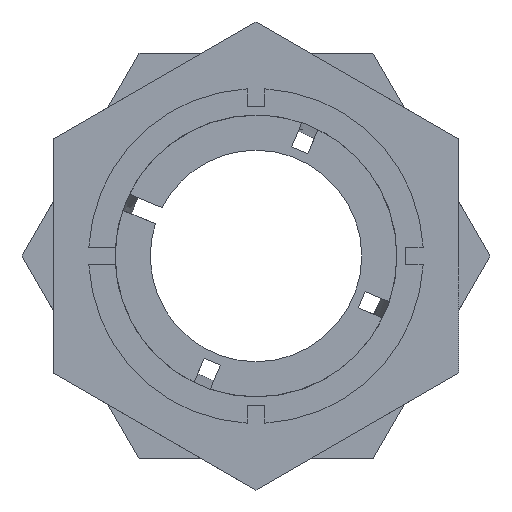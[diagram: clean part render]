
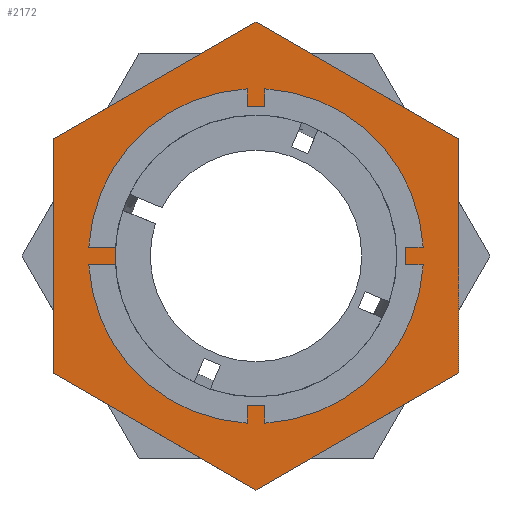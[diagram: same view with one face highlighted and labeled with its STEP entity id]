
A CAD part, left-side view. The second image highlights one B-rep face of the part: STEP entity #2172.
In plain terms, the highlighted planar face has unit normal (-1, 0, 0).
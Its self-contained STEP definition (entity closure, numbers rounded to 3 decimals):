
#151 = AXIS2_PLACEMENT_3D ( 'NONE', #1715, #1707, #1705 ) ;
#191 = EDGE_CURVE ( 'NONE', #2086, #2088, #2316, .T. ) ;
#220 = EDGE_CURVE ( 'NONE', #2098, #2087, #2275, .T. ) ;
#225 = AXIS2_PLACEMENT_3D ( 'NONE', #1922, #1916, #1914 ) ;
#254 = EDGE_CURVE ( 'NONE', #2087, #2100, #2257, .T. ) ;
#273 = EDGE_CURVE ( 'NONE', #2081, #2096, #961, .T. ) ;
#280 = EDGE_CURVE ( 'NONE', #2088, #2098, #2247, .T. ) ;
#358 = EDGE_CURVE ( 'NONE', #2096, #2081, #1239, .T. ) ;
#363 = EDGE_CURVE ( 'NONE', #2100, #2095, #1260, .T. ) ;
#370 = EDGE_CURVE ( 'NONE', #2095, #2086, #538, .T. ) ;
#524 = VECTOR ( 'NONE', #1691, 1000. ) ;
#538 = LINE ( 'NONE', #1675, #539 ) ;
#539 = VECTOR ( 'NONE', #1674, 1000. ) ;
#609 = FACE_BOUND ( 'NONE', #858, .T. ) ;
#614 = FACE_OUTER_BOUND ( 'NONE', #837, .T. ) ;
#724 = DIRECTION ( 'NONE',  ( 0., 0., -1. ) ) ;
#727 = PLANE ( 'NONE',  #1086 ) ;
#729 = DIRECTION ( 'NONE',  ( 1., 0., 0. ) ) ;
#765 = CARTESIAN_POINT ( 'NONE',  ( 20.52, 50., 0. ) ) ;
#837 = EDGE_LOOP ( 'NONE', ( #2382, #2380, #2379, #2381, #2432, #2430 ) ) ;
#858 = EDGE_LOOP ( 'NONE', ( #2384, #2383 ) ) ;
#960 = VECTOR ( 'NONE', #1889, 1000. ) ;
#961 = CIRCLE ( 'NONE', #225, 15.001 ) ;
#1086 = AXIS2_PLACEMENT_3D ( 'NONE', #765, #729, #724 ) ;
#1239 = CIRCLE ( 'NONE', #151, 15.001 ) ;
#1260 = LINE ( 'NONE', #1696, #524 ) ;
#1494 = CARTESIAN_POINT ( 'NONE',  ( 20.52, -23., -13.279 ) ) ;
#1496 = CARTESIAN_POINT ( 'NONE',  ( 20.52, 23., -13.279 ) ) ;
#1498 = CARTESIAN_POINT ( 'NONE',  ( 20.52, 0., 15.001 ) ) ;
#1499 = CARTESIAN_POINT ( 'NONE',  ( 20.52, -23., 13.279 ) ) ;
#1507 = CARTESIAN_POINT ( 'NONE',  ( 20.52, 23., 13.279 ) ) ;
#1508 = CARTESIAN_POINT ( 'NONE',  ( 20.52, 0., -26.558 ) ) ;
#1511 = CARTESIAN_POINT ( 'NONE',  ( 20.52, 0., 26.558 ) ) ;
#1517 = CARTESIAN_POINT ( 'NONE',  ( 20.52, 0., -15.001 ) ) ;
#1674 = DIRECTION ( 'NONE',  ( 0., 0.866, 0.5 ) ) ;
#1675 = CARTESIAN_POINT ( 'NONE',  ( 20.52, 0., 26.558 ) ) ;
#1691 = DIRECTION ( 'NONE',  ( 0., 0., 1. ) ) ;
#1696 = CARTESIAN_POINT ( 'NONE',  ( 20.52, -23., 13.279 ) ) ;
#1705 = DIRECTION ( 'NONE',  ( 0., 0., 1. ) ) ;
#1707 = DIRECTION ( 'NONE',  ( -1., 0., 0. ) ) ;
#1715 = CARTESIAN_POINT ( 'NONE',  ( 20.52, 0., 0. ) ) ;
#1889 = DIRECTION ( 'NONE',  ( 0., 0., -1. ) ) ;
#1891 = CARTESIAN_POINT ( 'NONE',  ( 20.52, 23., -13.279 ) ) ;
#1914 = DIRECTION ( 'NONE',  ( 0., 0., 1. ) ) ;
#1916 = DIRECTION ( 'NONE',  ( -1., 0., 0. ) ) ;
#1922 = CARTESIAN_POINT ( 'NONE',  ( 20.52, 0., 0. ) ) ;
#1937 = DIRECTION ( 'NONE',  ( 0., 0.866, -0.5 ) ) ;
#1958 = CARTESIAN_POINT ( 'NONE',  ( 20.52, 23., 13.279 ) ) ;
#1984 = DIRECTION ( 'NONE',  ( 0., -0.866, 0.5 ) ) ;
#1994 = CARTESIAN_POINT ( 'NONE',  ( 20.52, -23., -13.279 ) ) ;
#2014 = DIRECTION ( 'NONE',  ( 0., -0.866, -0.5 ) ) ;
#2015 = CARTESIAN_POINT ( 'NONE',  ( 20.52, 0., -26.558 ) ) ;
#2081 = VERTEX_POINT ( 'NONE', #1517 ) ;
#2086 = VERTEX_POINT ( 'NONE', #1511 ) ;
#2087 = VERTEX_POINT ( 'NONE', #1508 ) ;
#2088 = VERTEX_POINT ( 'NONE', #1507 ) ;
#2095 = VERTEX_POINT ( 'NONE', #1499 ) ;
#2096 = VERTEX_POINT ( 'NONE', #1498 ) ;
#2098 = VERTEX_POINT ( 'NONE', #1496 ) ;
#2100 = VERTEX_POINT ( 'NONE', #1494 ) ;
#2172 = ADVANCED_FACE ( 'NONE', ( #609, #614 ), #727, .F. ) ;
#2247 = LINE ( 'NONE', #1891, #960 ) ;
#2257 = LINE ( 'NONE', #1994, #2263 ) ;
#2263 = VECTOR ( 'NONE', #1984, 1000. ) ;
#2275 = LINE ( 'NONE', #2015, #2291 ) ;
#2291 = VECTOR ( 'NONE', #2014, 1000. ) ;
#2316 = LINE ( 'NONE', #1958, #2318 ) ;
#2318 = VECTOR ( 'NONE', #1937, 1000. ) ;
#2379 = ORIENTED_EDGE ( 'NONE', *, *, #220, .T. ) ;
#2380 = ORIENTED_EDGE ( 'NONE', *, *, #280, .T. ) ;
#2381 = ORIENTED_EDGE ( 'NONE', *, *, #254, .T. ) ;
#2382 = ORIENTED_EDGE ( 'NONE', *, *, #191, .T. ) ;
#2383 = ORIENTED_EDGE ( 'NONE', *, *, #273, .F. ) ;
#2384 = ORIENTED_EDGE ( 'NONE', *, *, #358, .F. ) ;
#2430 = ORIENTED_EDGE ( 'NONE', *, *, #370, .T. ) ;
#2432 = ORIENTED_EDGE ( 'NONE', *, *, #363, .T. ) ;
